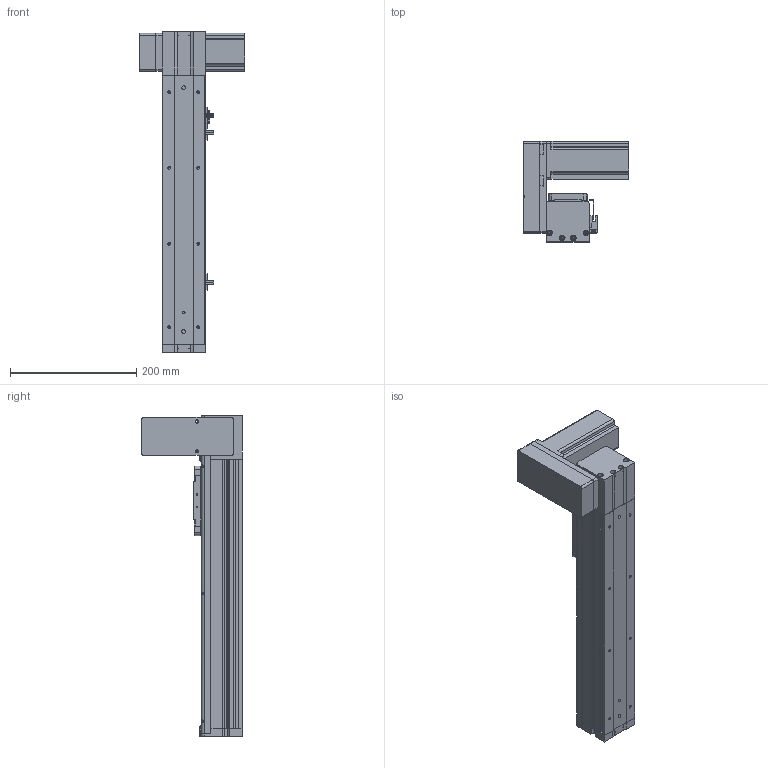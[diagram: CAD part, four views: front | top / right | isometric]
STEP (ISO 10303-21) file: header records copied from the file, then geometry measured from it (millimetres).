
FILE_DESCRIPTION (( 'STEP AP214' ), '1' );
FILE_NAME ('KSD68BS-S250-MRU-CR.STEP', '2019-11-08T05:46:50', ( '微软用户' ), ( '微软中国' ), 'SwSTEP 2.0', 'SolidWorks 2014', '' );
FILE_SCHEMA (( 'AUTOMOTIVE_DESIGN' ));
Length unit declared in the file: millimetre
Products named in the file (14): KSD68BS 250行程底板全封闭; KSD68BS-S250-MRU-CR; 68遵裔啣揤啣1; 68宽单导轨全封闭丝杆传动安装板1防护罩; KSD68BS 250行程侧板全封闭; KSD68BS 250行程盖板全封闭; 68宽单导轨全封闭同步带端板; 68单导轨全封闭同步带电机座右; 68单导轨全封闭同步带安装板; 悵誘欶奻狟殏; 68宽马达安装板连板上折同步带; 感应片68宽全封闭; U倰嫖萇EEㄜSX672; 台达ECMA－C20604AS伺服电机（400W)
Assembly tree (17 placements, depth 2):
  KSD68BS-S250-MRU-CR
    KSD68BS 250行程底板全封闭
    台达ECMA－C20604AS伺服电机（400W)
    U倰嫖萇EEㄜSX672  x3
    感应片68宽全封闭
    68宽马达安装板连板上折同步带
    悵誘欶奻狟殏
    68单导轨全封闭同步带安装板
    68单导轨全封闭同步带电机座右
    68宽单导轨全封闭同步带端板
    KSD68BS 250行程侧板全封闭  x2
    68宽单导轨全封闭丝杆传动安装板1防护罩
    68遵裔啣揤啣1  x2
    KSD68BS 250行程盖板全封闭
Bounding box: 167.2 x 159.5 x 508.1 mm (x, y, z)
Volume: 1527981.2 mm3; surface area: 494448.5 mm2
Topology: 18 solids, 18 shells, 1346 faces, 3771 edges, 2427 vertices
Faces by surface type: plane 623, cylinder 595, cone 128
Entity records: 41060 total; most frequent: CARTESIAN_POINT 6853, DIRECTION 6243, ORIENTED_EDGE 5986, EDGE_CURVE 2993, AXIS2_PLACEMENT_3D 2207, VERTEX_POINT 1965, VECTOR 1829, LINE 1829
